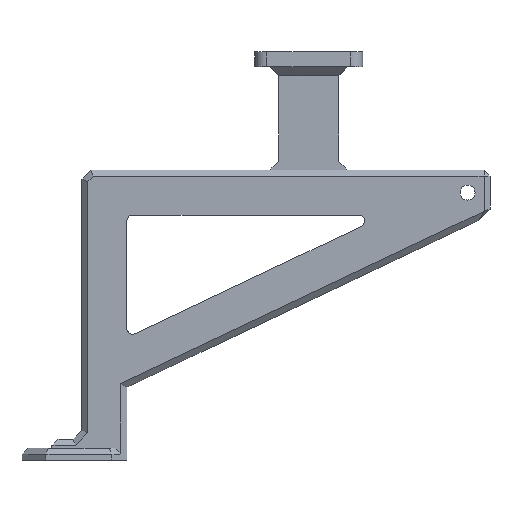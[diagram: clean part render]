
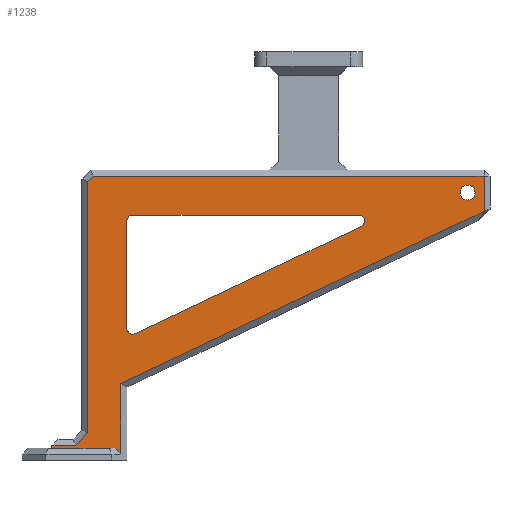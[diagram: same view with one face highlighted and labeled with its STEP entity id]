
A CAD part, left-side view. The second image highlights one B-rep face of the part: STEP entity #1238.
In plain terms, the highlighted planar face has unit normal (-1, 0, 0).
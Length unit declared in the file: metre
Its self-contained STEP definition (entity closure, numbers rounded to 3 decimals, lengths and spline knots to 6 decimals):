
#31=CIRCLE('',#1324,0.0025);
#35=CIRCLE('',#1330,0.002);
#36=CIRCLE('',#1331,0.002);
#37=CIRCLE('',#1332,0.002);
#160=ORIENTED_EDGE('',*,*,#493,.F.);
#161=ORIENTED_EDGE('',*,*,#494,.F.);
#162=ORIENTED_EDGE('',*,*,#495,.F.);
#163=ORIENTED_EDGE('',*,*,#496,.F.);
#164=ORIENTED_EDGE('',*,*,#497,.F.);
#165=ORIENTED_EDGE('',*,*,#498,.F.);
#166=ORIENTED_EDGE('',*,*,#499,.F.);
#167=ORIENTED_EDGE('',*,*,#450,.F.);
#168=ORIENTED_EDGE('',*,*,#500,.T.);
#169=ORIENTED_EDGE('',*,*,#501,.F.);
#170=ORIENTED_EDGE('',*,*,#502,.F.);
#171=ORIENTED_EDGE('',*,*,#466,.F.);
#172=ORIENTED_EDGE('',*,*,#503,.F.);
#173=ORIENTED_EDGE('',*,*,#425,.F.);
#174=ORIENTED_EDGE('',*,*,#504,.F.);
#175=ORIENTED_EDGE('',*,*,#423,.F.);
#176=ORIENTED_EDGE('',*,*,#505,.F.);
#177=ORIENTED_EDGE('',*,*,#473,.T.);
#423=EDGE_CURVE('',#596,#597,#712,.T.);
#425=EDGE_CURVE('',#598,#599,#714,.T.);
#450=EDGE_CURVE('',#621,#622,#736,.T.);
#466=EDGE_CURVE('',#636,#637,#752,.T.);
#473=EDGE_CURVE('',#643,#643,#31,.T.);
#493=EDGE_CURVE('',#651,#652,#774,.T.);
#494=EDGE_CURVE('',#653,#651,#775,.T.);
#495=EDGE_CURVE('',#654,#653,#776,.T.);
#496=EDGE_CURVE('',#655,#654,#777,.T.);
#497=EDGE_CURVE('',#656,#655,#778,.T.);
#498=EDGE_CURVE('',#657,#656,#779,.T.);
#499=EDGE_CURVE('',#622,#657,#780,.T.);
#500=EDGE_CURVE('',#621,#658,#781,.T.);
#501=EDGE_CURVE('',#659,#658,#782,.F.);
#502=EDGE_CURVE('',#652,#659,#783,.T.);
#503=EDGE_CURVE('',#599,#636,#35,.F.);
#504=EDGE_CURVE('',#597,#598,#36,.F.);
#505=EDGE_CURVE('',#637,#596,#37,.F.);
#596=VERTEX_POINT('',#1787);
#597=VERTEX_POINT('',#1789);
#598=VERTEX_POINT('',#1793);
#599=VERTEX_POINT('',#1794);
#621=VERTEX_POINT('',#1844);
#622=VERTEX_POINT('',#1846);
#636=VERTEX_POINT('',#1879);
#637=VERTEX_POINT('',#1881);
#643=VERTEX_POINT('',#1896);
#651=VERTEX_POINT('',#1926);
#652=VERTEX_POINT('',#1927);
#653=VERTEX_POINT('',#1929);
#654=VERTEX_POINT('',#1931);
#655=VERTEX_POINT('',#1933);
#656=VERTEX_POINT('',#1935);
#657=VERTEX_POINT('',#1937);
#658=VERTEX_POINT('',#1940);
#659=VERTEX_POINT('',#1942);
#712=LINE('',#1788,#860);
#714=LINE('',#1792,#862);
#736=LINE('',#1845,#884);
#752=LINE('',#1880,#900);
#774=LINE('',#1925,#922);
#775=LINE('',#1928,#923);
#776=LINE('',#1930,#924);
#777=LINE('',#1932,#925);
#778=LINE('',#1934,#926);
#779=LINE('',#1936,#927);
#780=LINE('',#1938,#928);
#781=LINE('',#1939,#929);
#782=LINE('',#1941,#930);
#783=LINE('',#1943,#931);
#860=VECTOR('',#1432,1.);
#862=VECTOR('',#1436,1.);
#884=VECTOR('',#1472,1.);
#900=VECTOR('',#1496,1.);
#922=VECTOR('',#1536,1.);
#923=VECTOR('',#1537,1.);
#924=VECTOR('',#1538,1.);
#925=VECTOR('',#1539,1.);
#926=VECTOR('',#1540,1.);
#927=VECTOR('',#1541,1.);
#928=VECTOR('',#1542,1.);
#929=VECTOR('',#1543,1.);
#930=VECTOR('',#1544,1.);
#931=VECTOR('',#1545,1.);
#1013=EDGE_LOOP('',(#160,#161,#162,#163,#164,#165,#166,#167,#168,#169,#170));
#1014=EDGE_LOOP('',(#171,#172,#173,#174,#175,#176));
#1015=EDGE_LOOP('',(#177));
#1100=FACE_BOUND('',#1013,.T.);
#1101=FACE_BOUND('',#1014,.T.);
#1102=FACE_BOUND('',#1015,.T.);
#1180=PLANE('',#1329);
#1238=ADVANCED_FACE('',(#1100,#1101,#1102),#1180,.T.);
#1324=AXIS2_PLACEMENT_3D('',#1895,#1508,#1509);
#1329=AXIS2_PLACEMENT_3D('',#1924,#1534,#1535);
#1330=AXIS2_PLACEMENT_3D('',#1944,#1546,#1547);
#1331=AXIS2_PLACEMENT_3D('',#1945,#1548,#1549);
#1332=AXIS2_PLACEMENT_3D('',#1946,#1550,#1551);
#1432=DIRECTION('',(0.,0.,-1.));
#1436=DIRECTION('',(0.,-0.903,0.429));
#1472=DIRECTION('',(0.,0.,1.));
#1496=DIRECTION('',(0.,1.,0.));
#1508=DIRECTION('',(1.,0.,0.));
#1509=DIRECTION('',(0.,0.,-1.));
#1534=DIRECTION('',(-1.,0.,0.));
#1535=DIRECTION('',(0.,1.,0.));
#1536=DIRECTION('',(0.,0.903,-0.429));
#1537=DIRECTION('',(0.,0.,-1.));
#1538=DIRECTION('',(0.,-1.,0.));
#1539=DIRECTION('',(0.,-0.707,0.707));
#1540=DIRECTION('',(0.,0.,1.));
#1541=DIRECTION('',(0.,-0.707,0.707));
#1542=DIRECTION('',(0.,-1.,0.));
#1543=DIRECTION('',(0.,-1.,0.));
#1544=DIRECTION('',(0.,-0.707,-0.707));
#1545=DIRECTION('',(0.,0.,-1.));
#1546=DIRECTION('',(1.,0.,0.));
#1547=DIRECTION('',(0.,0.,-1.));
#1548=DIRECTION('',(1.,0.,0.));
#1549=DIRECTION('',(0.,0.,-1.));
#1550=DIRECTION('',(1.,0.,0.));
#1551=DIRECTION('',(0.,0.,-1.));
#1787=CARTESIAN_POINT('',(-0.03,-0.085,0.084864));
#1788=CARTESIAN_POINT('',(-0.03,-0.085,0.066398));
#1789=CARTESIAN_POINT('',(-0.03,-0.085,0.049095));
#1792=CARTESIAN_POINT('',(-0.03,-0.128124,0.066398));
#1793=CARTESIAN_POINT('',(-0.03,-0.087858,0.047288));
#1794=CARTESIAN_POINT('',(-0.03,-0.163227,0.083058));
#1844=CARTESIAN_POINT('',(-0.03,-0.06,0.009));
#1845=CARTESIAN_POINT('',(-0.03,-0.06,0.0085));
#1846=CARTESIAN_POINT('',(-0.03,-0.06,0.01));
#1879=CARTESIAN_POINT('',(-0.03,-0.16237,0.086864));
#1880=CARTESIAN_POINT('',(-0.03,-0.128124,0.086864));
#1881=CARTESIAN_POINT('',(-0.03,-0.087,0.086864));
#1895=CARTESIAN_POINT('',(-0.03,-0.198734,0.094364));
#1896=CARTESIAN_POINT('',(-0.03,-0.198734,0.091864));
#1924=CARTESIAN_POINT('',(-0.03,-0.133117,0.053432));
#1925=CARTESIAN_POINT('',(-0.03,-0.084142,0.031136));
#1926=CARTESIAN_POINT('',(-0.03,-0.204234,0.088129));
#1927=CARTESIAN_POINT('',(-0.03,-0.083,0.030593));
#1928=CARTESIAN_POINT('',(-0.03,-0.204234,0.053432));
#1929=CARTESIAN_POINT('',(-0.03,-0.204234,0.099864));
#1930=CARTESIAN_POINT('',(-0.03,-0.133117,0.099864));
#1931=CARTESIAN_POINT('',(-0.03,-0.073828,0.099864));
#1932=CARTESIAN_POINT('',(-0.03,-0.080257,0.106293));
#1933=CARTESIAN_POINT('',(-0.03,-0.072,0.098036));
#1934=CARTESIAN_POINT('',(-0.03,-0.072,0.053432));
#1935=CARTESIAN_POINT('',(-0.03,-0.072,0.014172));
#1936=CARTESIAN_POINT('',(-0.03,-0.071414,0.013586));
#1937=CARTESIAN_POINT('',(-0.03,-0.067828,0.01));
#1938=CARTESIAN_POINT('',(-0.03,-0.133117,0.01));
#1939=CARTESIAN_POINT('',(-0.03,-0.065,0.009));
#1940=CARTESIAN_POINT('',(-0.03,-0.081,0.009));
#1941=CARTESIAN_POINT('',(-0.03,-0.083,0.007));
#1942=CARTESIAN_POINT('',(-0.03,-0.083,0.007));
#1943=CARTESIAN_POINT('',(-0.03,-0.083,0.053432));
#1944=CARTESIAN_POINT('',(-0.03,-0.16237,0.084864));
#1945=CARTESIAN_POINT('',(-0.03,-0.087,0.049095));
#1946=CARTESIAN_POINT('',(-0.03,-0.087,0.084864));
